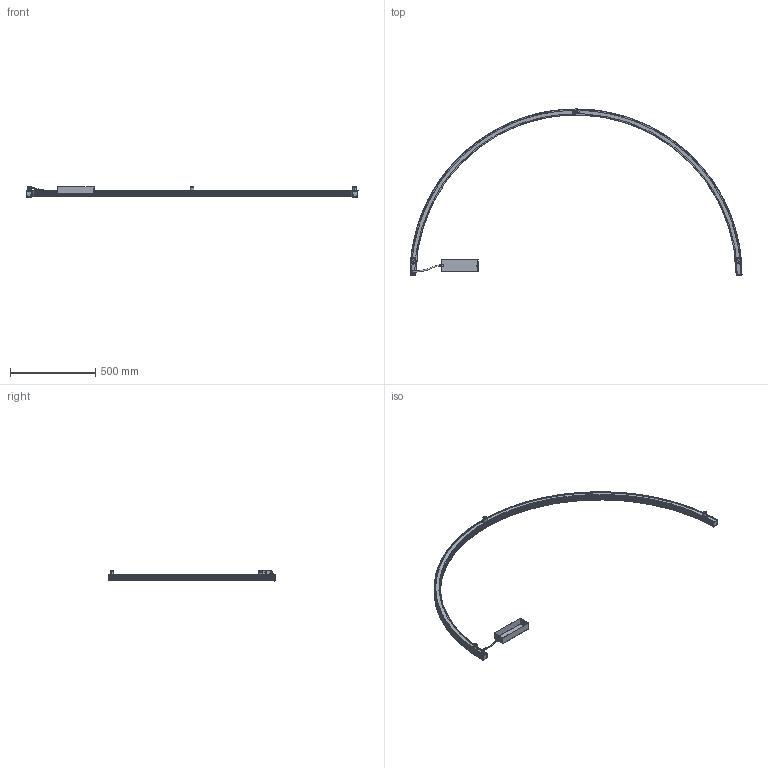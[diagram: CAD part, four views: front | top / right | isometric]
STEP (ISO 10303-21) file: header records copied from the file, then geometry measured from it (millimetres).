
FILE_DESCRIPTION(/* description */ (''),/* implementation_level */ '2;1');
FILE_NAME(/* name */ 'P232__~2',/* time_stamp */ '2024-07-05T10:38:57+02:00',/* author */ (''),/* organization */ (''),/* preprocessor_version */ 'ST-DEVELOPER v16.5',/* originating_system */ '',/* authorisation */ '');
FILE_SCHEMA (('AUTOMOTIVE_DESIGN'));
Length unit declared in the file: millimetre
Products named in the file (1): Document
Bounding box: 1950 x 981.51 x 59 mm (x, y, z)
Volume: 1010338.5 mm3; surface area: 1197600.1 mm2
Topology: 36 solids, 36 shells, 1302 faces, 3263 edges, 1979 vertices
Faces by surface type: bspline 768, plane 534
Entity records: 59318 total; most frequent: CARTESIAN_POINT 40069, ORIENTED_EDGE 6362, EDGE_CURVE 3181, VERTEX_POINT 1979, B_SPLINE_CURVE_WITH_KNOTS 1793, EDGE_LOOP 1384, ADVANCED_FACE 1302, FACE_OUTER_BOUND 1302
